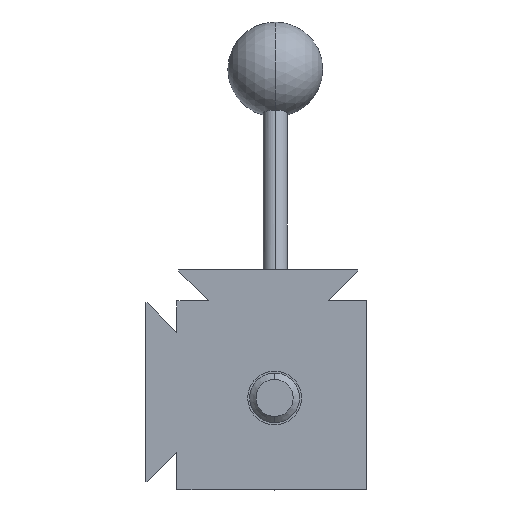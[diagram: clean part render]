
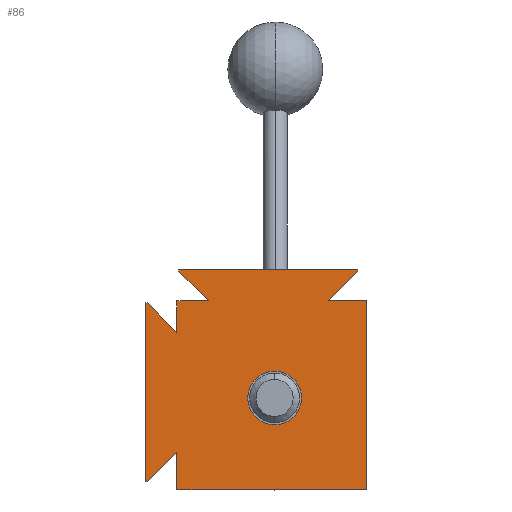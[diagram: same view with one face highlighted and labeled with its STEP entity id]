
A CAD part, front view. The second image highlights one B-rep face of the part: STEP entity #86.
In plain terms, the highlighted planar face has unit normal (0, -1, 0).
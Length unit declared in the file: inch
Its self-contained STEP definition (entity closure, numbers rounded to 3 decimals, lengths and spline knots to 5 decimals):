
#25 = VERTEX_POINT ( 'NONE', #12910 ) ;
#86 = ADVANCED_FACE ( 'NONE', ( #13783, #5179 ), #10503, .F. ) ;
#110 = VERTEX_POINT ( 'NONE', #8332 ) ;
#135 = LINE ( 'NONE', #340, #8182 ) ;
#217 = VECTOR ( 'NONE', #1430, 39.37008 ) ;
#340 = CARTESIAN_POINT ( 'NONE',  ( -0.875, 0., -0.8725 ) ) ;
#416 = CARTESIAN_POINT ( 'NONE',  ( 0.56988, 0., 0.6225 ) ) ;
#544 = VERTEX_POINT ( 'NONE', #7833 ) ;
#548 = CARTESIAN_POINT ( 'NONE',  ( -0.375, 0., 0.6225 ) ) ;
#637 = DIRECTION ( 'NONE',  ( 0.707, 0., -0.707 ) ) ;
#715 = CARTESIAN_POINT ( 'NONE',  ( 0.147, 0., -0.1445 ) ) ;
#735 = VERTEX_POINT ( 'NONE', #1861 ) ;
#902 = LINE ( 'NONE', #9481, #6738 ) ;
#919 = CARTESIAN_POINT ( 'NONE',  ( 0.147, 0., -0.1445 ) ) ;
#934 = EDGE_CURVE ( 'NONE', #110, #25, #1044, .T. ) ;
#967 = ORIENTED_EDGE ( 'NONE', *, *, #2011, .T. ) ;
#992 = EDGE_CURVE ( 'NONE', #7403, #2374, #5205, .T. ) ;
#1039 = VECTOR ( 'NONE', #1985, 39.37008 ) ;
#1044 = LINE ( 'NONE', #8485, #3986 ) ;
#1383 = LINE ( 'NONE', #9667, #1039 ) ;
#1430 = DIRECTION ( 'NONE',  ( 0., 0., 1. ) ) ;
#1515 = DIRECTION ( 'NONE',  ( -1., 0., 0. ) ) ;
#1576 = LINE ( 'NONE', #9014, #12821 ) ;
#1760 = CARTESIAN_POINT ( 'NONE',  ( -0.625, 0., 0.3725 ) ) ;
#1830 = DIRECTION ( 'NONE',  ( 0., 0., 1. ) ) ;
#1861 = CARTESIAN_POINT ( 'NONE',  ( -0.61108, 0., 0.85858 ) ) ;
#1985 = DIRECTION ( 'NONE',  ( -1., 0., 0. ) ) ;
#2011 = EDGE_CURVE ( 'NONE', #2066, #8267, #10728, .T. ) ;
#2020 = DIRECTION ( 'NONE',  ( 0., 0., 1. ) ) ;
#2050 = AXIS2_PLACEMENT_3D ( 'NONE', #8845, #10162, #13989 ) ;
#2066 = VERTEX_POINT ( 'NONE', #10212 ) ;
#2149 = CARTESIAN_POINT ( 'NONE',  ( -0.875, 0., 0.60858 ) ) ;
#2186 = AXIS2_PLACEMENT_3D ( 'NONE', #715, #8378, #1830 ) ;
#2369 = ORIENTED_EDGE ( 'NONE', *, *, #992, .T. ) ;
#2374 = VERTEX_POINT ( 'NONE', #6585 ) ;
#2539 = EDGE_CURVE ( 'NONE', #110, #5390, #4094, .T. ) ;
#2647 = DIRECTION ( 'NONE',  ( -1., 0., 0. ) ) ;
#2976 = DIRECTION ( 'NONE',  ( 0., 0., -1. ) ) ;
#2984 = ORIENTED_EDGE ( 'NONE', *, *, #11028, .T. ) ;
#3171 = LINE ( 'NONE', #11241, #8935 ) ;
#3380 = CARTESIAN_POINT ( 'NONE',  ( 0.56988, 0., 0.6225 ) ) ;
#3396 = VERTEX_POINT ( 'NONE', #10271 ) ;
#3574 = CARTESIAN_POINT ( 'NONE',  ( -0.625, 0., 0.3725 ) ) ;
#3586 = VERTEX_POINT ( 'NONE', #3731 ) ;
#3608 = ORIENTED_EDGE ( 'NONE', *, *, #2539, .T. ) ;
#3691 = LINE ( 'NONE', #13664, #9133 ) ;
#3731 = CARTESIAN_POINT ( 'NONE',  ( -0.86108, 0., 0.60858 ) ) ;
#3978 = EDGE_LOOP ( 'NONE', ( #8074, #7439 ) ) ;
#3986 = VECTOR ( 'NONE', #9739, 39.37008 ) ;
#4041 = CARTESIAN_POINT ( 'NONE',  ( 0.80596, 0., 0.85858 ) ) ;
#4094 = LINE ( 'NONE', #416, #9530 ) ;
#4201 = CARTESIAN_POINT ( 'NONE',  ( -0.625, 0., 0.6225 ) ) ;
#4477 = ORIENTED_EDGE ( 'NONE', *, *, #5020, .F. ) ;
#4625 = EDGE_CURVE ( 'NONE', #11357, #3586, #10213, .T. ) ;
#4814 = ORIENTED_EDGE ( 'NONE', *, *, #11965, .T. ) ;
#5020 = EDGE_CURVE ( 'NONE', #25, #8658, #135, .T. ) ;
#5044 = ORIENTED_EDGE ( 'NONE', *, *, #7892, .T. ) ;
#5179 = FACE_OUTER_BOUND ( 'NONE', #7065, .T. ) ;
#5180 = CARTESIAN_POINT ( 'NONE',  ( -0.875, 0., -0.80846 ) ) ;
#5205 = LINE ( 'NONE', #11495, #10919 ) ;
#5390 = VERTEX_POINT ( 'NONE', #3380 ) ;
#5970 = ORIENTED_EDGE ( 'NONE', *, *, #934, .F. ) ;
#6036 = VERTEX_POINT ( 'NONE', #548 ) ;
#6052 = ORIENTED_EDGE ( 'NONE', *, *, #9169, .T. ) ;
#6149 = ORIENTED_EDGE ( 'NONE', *, *, #7294, .F. ) ;
#6382 = VERTEX_POINT ( 'NONE', #2149 ) ;
#6471 = CARTESIAN_POINT ( 'NONE',  ( -0.375, 0., 0.6225 ) ) ;
#6535 = ORIENTED_EDGE ( 'NONE', *, *, #13553, .T. ) ;
#6585 = CARTESIAN_POINT ( 'NONE',  ( 0.80596, 0., 0.8725 ) ) ;
#6738 = VECTOR ( 'NONE', #2976, 39.37008 ) ;
#6756 = DIRECTION ( 'NONE',  ( 1., 0., 0. ) ) ;
#6835 = DIRECTION ( 'NONE',  ( 0., 0., -1. ) ) ;
#7065 = EDGE_LOOP ( 'NONE', ( #12302, #12962, #967, #6052, #4477, #5970, #3608, #4814, #2369, #6149, #2984, #5044, #12996, #6535, #12273, #13037 ) ) ;
#7220 = DIRECTION ( 'NONE',  ( -0.707, 0., 0.707 ) ) ;
#7294 = EDGE_CURVE ( 'NONE', #8214, #2374, #14079, .T. ) ;
#7368 = VECTOR ( 'NONE', #7220, 39.37008 ) ;
#7403 = VERTEX_POINT ( 'NONE', #4041 ) ;
#7439 = ORIENTED_EDGE ( 'NONE', *, *, #11633, .T. ) ;
#7824 = LINE ( 'NONE', #13526, #13554 ) ;
#7833 = CARTESIAN_POINT ( 'NONE',  ( 0.147, 0., -0.3571 ) ) ;
#7892 = EDGE_CURVE ( 'NONE', #735, #6036, #3691, .T. ) ;
#7962 = VERTEX_POINT ( 'NONE', #5180 ) ;
#8074 = ORIENTED_EDGE ( 'NONE', *, *, #8908, .T. ) ;
#8112 = VECTOR ( 'NONE', #9715, 39.37008 ) ;
#8182 = VECTOR ( 'NONE', #2647, 39.37008 ) ;
#8214 = VERTEX_POINT ( 'NONE', #8464 ) ;
#8267 = VERTEX_POINT ( 'NONE', #11847 ) ;
#8280 = EDGE_CURVE ( 'NONE', #6036, #13313, #10982, .T. ) ;
#8332 = CARTESIAN_POINT ( 'NONE',  ( 0.875, 0., 0.6225 ) ) ;
#8378 = DIRECTION ( 'NONE',  ( 0., 1., 0. ) ) ;
#8464 = CARTESIAN_POINT ( 'NONE',  ( -0.61108, 0., 0.8725 ) ) ;
#8485 = CARTESIAN_POINT ( 'NONE',  ( 0.875, 0., -0.8725 ) ) ;
#8557 = AXIS2_PLACEMENT_3D ( 'NONE', #919, #8574, #2020 ) ;
#8574 = DIRECTION ( 'NONE',  ( 0., 1., 0. ) ) ;
#8658 = VERTEX_POINT ( 'NONE', #12635 ) ;
#8845 = CARTESIAN_POINT ( 'NONE',  ( 0., 0., 0. ) ) ;
#8908 = EDGE_CURVE ( 'NONE', #3396, #544, #11116, .T. ) ;
#8935 = VECTOR ( 'NONE', #9161, 39.37008 ) ;
#9014 = CARTESIAN_POINT ( 'NONE',  ( -0.625, 0., -0.57238 ) ) ;
#9042 = EDGE_CURVE ( 'NONE', #7962, #2066, #9448, .T. ) ;
#9062 = CARTESIAN_POINT ( 'NONE',  ( -0.875, 0., -0.8725 ) ) ;
#9090 = DIRECTION ( 'NONE',  ( 0.707, 0., 0.707 ) ) ;
#9114 = DIRECTION ( 'NONE',  ( 1., 0., 0. ) ) ;
#9133 = VECTOR ( 'NONE', #637, 39.37008 ) ;
#9161 = DIRECTION ( 'NONE',  ( 0.707, 0., 0.707 ) ) ;
#9169 = EDGE_CURVE ( 'NONE', #8267, #8658, #1576, .T. ) ;
#9320 = DIRECTION ( 'NONE',  ( 0., 0., 1. ) ) ;
#9448 = LINE ( 'NONE', #13210, #12300 ) ;
#9481 = CARTESIAN_POINT ( 'NONE',  ( -0.61108, 0., 0.85858 ) ) ;
#9530 = VECTOR ( 'NONE', #1515, 39.37008 ) ;
#9667 = CARTESIAN_POINT ( 'NONE',  ( -0.875, 0., 0.60858 ) ) ;
#9715 = DIRECTION ( 'NONE',  ( -1., 0., 0. ) ) ;
#9739 = DIRECTION ( 'NONE',  ( 0., 0., -1. ) ) ;
#10162 = DIRECTION ( 'NONE',  ( 0., 1., 0. ) ) ;
#10212 = CARTESIAN_POINT ( 'NONE',  ( -0.86108, 0., -0.80846 ) ) ;
#10213 = LINE ( 'NONE', #1760, #7368 ) ;
#10271 = CARTESIAN_POINT ( 'NONE',  ( 0.147, 0., 0.0681 ) ) ;
#10503 = PLANE ( 'NONE',  #2050 ) ;
#10529 = DIRECTION ( 'NONE',  ( 0., 0., -1. ) ) ;
#10728 = LINE ( 'NONE', #13359, #13582 ) ;
#10919 = VECTOR ( 'NONE', #9320, 39.37008 ) ;
#10982 = LINE ( 'NONE', #6471, #8112 ) ;
#11028 = EDGE_CURVE ( 'NONE', #8214, #735, #902, .T. ) ;
#11116 = CIRCLE ( 'NONE', #2186, 0.2126 ) ;
#11241 = CARTESIAN_POINT ( 'NONE',  ( 0.81988, 0., 0.8725 ) ) ;
#11357 = VERTEX_POINT ( 'NONE', #3574 ) ;
#11457 = CIRCLE ( 'NONE', #8557, 0.2126 ) ;
#11478 = LINE ( 'NONE', #9062, #217 ) ;
#11495 = CARTESIAN_POINT ( 'NONE',  ( 0.80596, 0., 0.8725 ) ) ;
#11550 = VECTOR ( 'NONE', #9114, 39.37008 ) ;
#11633 = EDGE_CURVE ( 'NONE', #544, #3396, #11457, .T. ) ;
#11847 = CARTESIAN_POINT ( 'NONE',  ( -0.625, 0., -0.57238 ) ) ;
#11946 = EDGE_CURVE ( 'NONE', #7962, #6382, #11478, .T. ) ;
#11965 = EDGE_CURVE ( 'NONE', #5390, #7403, #3171, .T. ) ;
#12273 = ORIENTED_EDGE ( 'NONE', *, *, #4625, .T. ) ;
#12300 = VECTOR ( 'NONE', #6756, 39.37008 ) ;
#12302 = ORIENTED_EDGE ( 'NONE', *, *, #11946, .F. ) ;
#12325 = CARTESIAN_POINT ( 'NONE',  ( -0.875, 0., 0.8725 ) ) ;
#12512 = EDGE_CURVE ( 'NONE', #3586, #6382, #1383, .T. ) ;
#12635 = CARTESIAN_POINT ( 'NONE',  ( -0.625, 0., -0.8725 ) ) ;
#12821 = VECTOR ( 'NONE', #6835, 39.37008 ) ;
#12910 = CARTESIAN_POINT ( 'NONE',  ( 0.875, 0., -0.8725 ) ) ;
#12962 = ORIENTED_EDGE ( 'NONE', *, *, #9042, .T. ) ;
#12996 = ORIENTED_EDGE ( 'NONE', *, *, #8280, .T. ) ;
#13037 = ORIENTED_EDGE ( 'NONE', *, *, #12512, .T. ) ;
#13210 = CARTESIAN_POINT ( 'NONE',  ( -0.86108, 0., -0.80846 ) ) ;
#13313 = VERTEX_POINT ( 'NONE', #4201 ) ;
#13359 = CARTESIAN_POINT ( 'NONE',  ( -0.875, 0., -0.82238 ) ) ;
#13526 = CARTESIAN_POINT ( 'NONE',  ( -0.625, 0., 0.6225 ) ) ;
#13553 = EDGE_CURVE ( 'NONE', #13313, #11357, #7824, .T. ) ;
#13554 = VECTOR ( 'NONE', #10529, 39.37008 ) ;
#13582 = VECTOR ( 'NONE', #9090, 39.37008 ) ;
#13664 = CARTESIAN_POINT ( 'NONE',  ( -0.625, 0., 0.8725 ) ) ;
#13783 = FACE_BOUND ( 'NONE', #3978, .T. ) ;
#13989 = DIRECTION ( 'NONE',  ( 0., 0., 1. ) ) ;
#14079 = LINE ( 'NONE', #12325, #11550 ) ;
